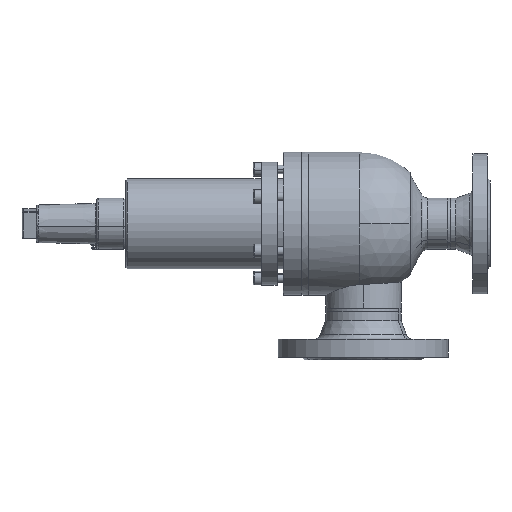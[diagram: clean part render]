
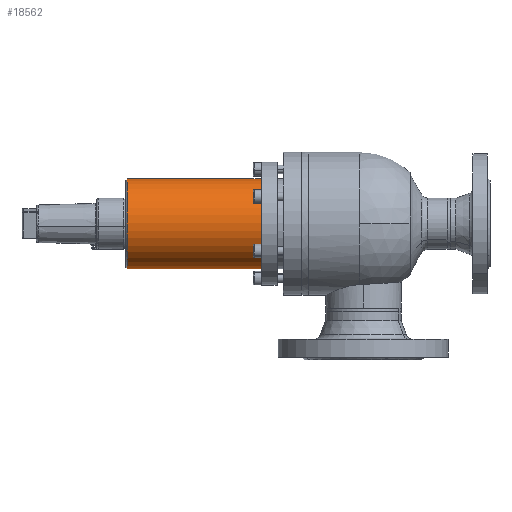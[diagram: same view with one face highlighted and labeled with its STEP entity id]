
A CAD part, left-side view. The second image highlights one B-rep face of the part: STEP entity #18562.
In plain terms, the highlighted cylindrical face has radius 53 mm (diameter 106 mm), a partial arc.
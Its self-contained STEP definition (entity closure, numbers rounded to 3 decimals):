
#16950 = EDGE_CURVE ( 'NONE', #16257, #17928, #13568, .T. ) ;
#626 = FACE_OUTER_BOUND ( 'NONE', #18388, .T. ) ;
#627 = CYLINDRICAL_SURFACE ( 'NONE', #628, 53. ) ;
#628 = AXIS2_PLACEMENT_3D ( 'NONE', #629, #630, #631 ) ;
#629 = CARTESIAN_POINT ( 'NONE',  ( 0., -43.922, 0. ) ) ;
#630 = DIRECTION ( 'NONE',  ( 0., -1., 0. ) ) ;
#631 = DIRECTION ( 'NONE',  ( 0., 0., -1. ) ) ;
#17353 = ORIENTED_EDGE ( 'NONE', *, *, #16950, .F. ) ;
#17415 = EDGE_CURVE ( 'NONE', #16257, #16055, #14074, .T. ) ;
#17822 = ORIENTED_EDGE ( 'NONE', *, *, #17415, .T. ) ;
#17928 = VERTEX_POINT ( 'NONE', #20081 ) ;
#18388 = EDGE_LOOP ( 'NONE', ( #17822, #15166, #13009, #17353 ) ) ;
#18562 = ADVANCED_FACE ( 'NONE', ( #626 ), #627, .T. ) ;
#20081 = CARTESIAN_POINT ( 'NONE',  ( 0., -139.058, -53. ) ) ;
#11115 = CIRCLE ( 'NONE', #11116, 53. ) ;
#11116 = AXIS2_PLACEMENT_3D ( 'NONE', #11117, #11118, #11119 ) ;
#11117 = CARTESIAN_POINT ( 'NONE',  ( 0., -139.058, 0. ) ) ;
#11118 = DIRECTION ( 'NONE',  ( 0., -1., 0. ) ) ;
#11119 = DIRECTION ( 'NONE',  ( 0., 0., -1. ) ) ;
#11593 = CARTESIAN_POINT ( 'NONE',  ( 0., -139.058, 53. ) ) ;
#11786 = LINE ( 'NONE', #11787, #11788 ) ;
#11787 = CARTESIAN_POINT ( 'NONE',  ( 0., -43.922, 53. ) ) ;
#11788 = VECTOR ( 'NONE', #11789, 1000. ) ;
#11789 = DIRECTION ( 'NONE',  ( 0., -1., 0. ) ) ;
#12802 = EDGE_CURVE ( 'NONE', #17928, #14012, #11115, .T. ) ;
#12930 = CARTESIAN_POINT ( 'NONE',  ( 0., 28.742, 53. ) ) ;
#13009 = ORIENTED_EDGE ( 'NONE', *, *, #12802, .F. ) ;
#13040 = CARTESIAN_POINT ( 'NONE',  ( 0., 28.742, -53. ) ) ;
#13568 = LINE ( 'NONE', #13569, #13570 ) ;
#13569 = CARTESIAN_POINT ( 'NONE',  ( 0., -43.922, -53. ) ) ;
#13570 = VECTOR ( 'NONE', #13571, 1000. ) ;
#13571 = DIRECTION ( 'NONE',  ( 0., -1., 0. ) ) ;
#14012 = VERTEX_POINT ( 'NONE', #11593 ) ;
#14074 = CIRCLE ( 'NONE', #14075, 53. ) ;
#14075 = AXIS2_PLACEMENT_3D ( 'NONE', #14076, #14077, #14078 ) ;
#14076 = CARTESIAN_POINT ( 'NONE',  ( 0., 28.742, 0. ) ) ;
#14077 = DIRECTION ( 'NONE',  ( 0., -1., 0. ) ) ;
#14078 = DIRECTION ( 'NONE',  ( 0., 0., -1. ) ) ;
#14445 = EDGE_CURVE ( 'NONE', #16055, #14012, #11786, .T. ) ;
#15166 = ORIENTED_EDGE ( 'NONE', *, *, #14445, .T. ) ;
#16055 = VERTEX_POINT ( 'NONE', #12930 ) ;
#16257 = VERTEX_POINT ( 'NONE', #13040 ) ;
